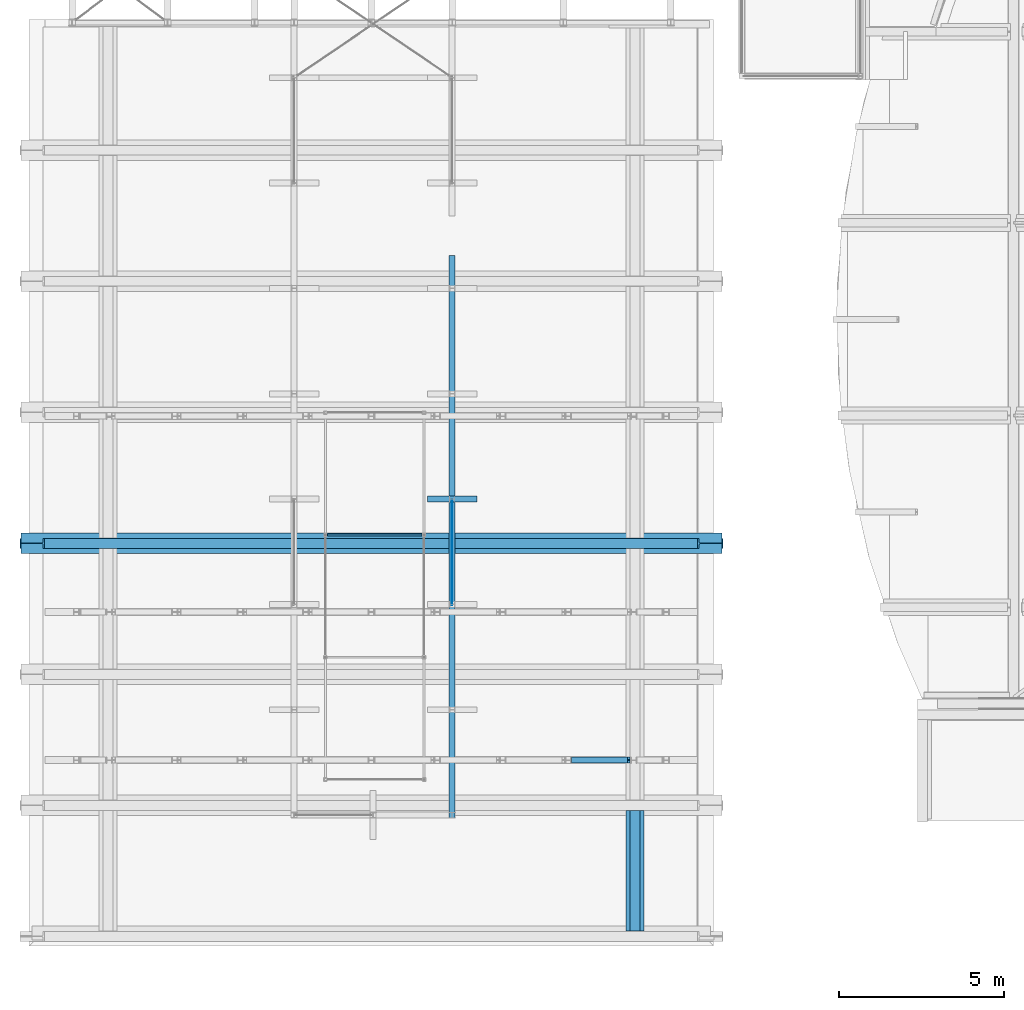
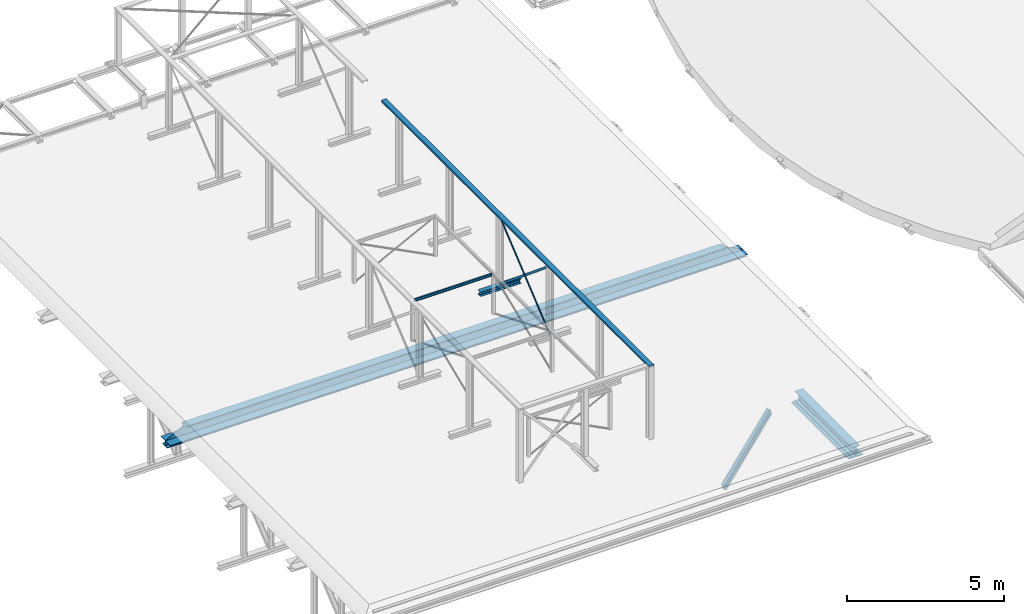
# One storey, part 13 of 50: 8 beams.
"""IFC2X3 building model written with IfcOpenShell, lengths in millimetres."""

from ifc_helpers import new_model, entity, si_unit, converted_unit, derived_unit, direction, frame, frame_2d, origin, origin_2d_with_axis, place, context, subcontext, project, spatial, polyline, circle_curve, parameter, trimmed, segment, composite_curve, rectangle, i_section, outline, extrude, clip, halfspace, bounded_halfspace, source, transform, mapped, material, material_list, type_object, type_shapes, element, save


model = new_model("IFC2X3")

# Units and contexts
model_context = context("Model", 3, precision=0.01, world=origin(), true_north=direction((6.12303176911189e-17, 1.0)))
body_context = subcontext(model_context, "Body", "Model", "MODEL_VIEW")
ifc_project = project(units=[si_unit("LENGTHUNIT", "METRE", prefix="MILLI"), si_unit("AREAUNIT", "SQUARE_METRE", prefix="MILLI"), si_unit("VOLUMEUNIT", "CUBIC_METRE"), converted_unit("PLANEANGLEUNIT", "DEGREE", entity("IfcRatioMeasure", 0.0174532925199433), si_unit("PLANEANGLEUNIT", "RADIAN"), dimensions=[0, 0, 0, 0, 0, 0, 0]), si_unit("MASSUNIT", "GRAM", prefix="KILO"), derived_unit("MASSDENSITYUNIT", [(si_unit("MASSUNIT", "GRAM", prefix="KILO"), 1), (si_unit("LENGTHUNIT", "METRE"), -3)]), derived_unit("MOMENTOFINERTIAUNIT", [(si_unit("LENGTHUNIT", "METRE"), 4)]), si_unit("TIMEUNIT", "SECOND"), si_unit("FREQUENCYUNIT", "HERTZ"), si_unit("THERMODYNAMICTEMPERATUREUNIT", "DEGREE_CELSIUS"), derived_unit("THERMALTRANSMITTANCEUNIT", [(si_unit("MASSUNIT", "GRAM", prefix="KILO"), 1), (si_unit("THERMODYNAMICTEMPERATUREUNIT", "KELVIN"), -1), (si_unit("TIMEUNIT", "SECOND"), -3)]), derived_unit("VOLUMETRICFLOWRATEUNIT", [(si_unit("LENGTHUNIT", "METRE"), 3), (si_unit("TIMEUNIT", "SECOND"), -1)]), si_unit("ELECTRICCURRENTUNIT", "AMPERE"), si_unit("ELECTRICVOLTAGEUNIT", "VOLT"), si_unit("POWERUNIT", "WATT"), si_unit("FORCEUNIT", "NEWTON", prefix="KILO"), si_unit("ILLUMINANCEUNIT", "LUX"), si_unit("LUMINOUSFLUXUNIT", "LUMEN"), si_unit("LUMINOUSINTENSITYUNIT", "CANDELA"), derived_unit("USERDEFINED", [(si_unit("MASSUNIT", "GRAM", prefix="KILO"), -1), (si_unit("LENGTHUNIT", "METRE"), -2), (si_unit("TIMEUNIT", "SECOND"), 3), (si_unit("LUMINOUSFLUXUNIT", "LUMEN"), 1)]), derived_unit("LINEARVELOCITYUNIT", [(si_unit("LENGTHUNIT", "METRE"), 1), (si_unit("TIMEUNIT", "SECOND"), -1)]), si_unit("PRESSUREUNIT", "PASCAL"), derived_unit("USERDEFINED", [(si_unit("LENGTHUNIT", "METRE"), -2), (si_unit("MASSUNIT", "GRAM", prefix="KILO"), 1), (si_unit("TIMEUNIT", "SECOND"), -2)]), derived_unit("LINEARFORCEUNIT", [(si_unit("MASSUNIT", "GRAM", prefix="KILO"), 1), (si_unit("LENGTHUNIT", "METRE"), 1), (si_unit("TIMEUNIT", "SECOND"), -2), (si_unit("LENGTHUNIT", "METRE"), -1)]), derived_unit("PLANARFORCEUNIT", [(si_unit("MASSUNIT", "GRAM", prefix="KILO"), 1), (si_unit("LENGTHUNIT", "METRE"), 1), (si_unit("TIMEUNIT", "SECOND"), -2), (si_unit("LENGTHUNIT", "METRE"), -2)])], contexts=[model_context])

# Site, building, storey
site_placement = place(None, origin())
site = spatial("IfcSite", under=ifc_project, at=site_placement, Name="Theater aan de Parade", CompositionType="ELEMENT")
building_placement = place(site_placement, origin())
building = spatial("IfcBuilding", under=site, at=building_placement, Name="Theater aan de Parade", CompositionType="ELEMENT")
storey_placement = place(building_placement, frame((0.0, 0.0, 15820.0)))
storey = spatial("IfcBuildingStorey", under=building, at=storey_placement, Name="04 vierde verdieping", CompositionType="ELEMENT", Elevation=15820.0)

# Beams
ifc_material_1 = material(Name="00_PBT_MAT_staal_S355")
beam_type_1 = type_object("IfcBeamType", Name="28_PBT_SF_staal_H-profiel:S355_HE180A", PredefinedType="NOTDEFINED")
beam_1_placement = place(storey_placement, frame((32079.8569884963, 19068.2922984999, -4340.0), z_axis=(0.816775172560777, 0.0, -0.576956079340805), x_axis=(0.576956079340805, 0.0, 0.816775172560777)))
element("IfcBeam", 1, at=beam_1_placement, inside=storey, type_object=beam_type_1, material=ifc_material_1, Name="28_PBT_SF_staal_H-profiel:S355_HE180A", ObjectType="28_PBT_SF_staal_H-profiel:S355_HE180A", context=body_context, shape_type="Clipping", body=[
    clip(clip(extrude(outline(composite_curve([segment(polyline([(76.0, -90.0), (85.5000000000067, -90.0)]), True, "CONTINUOUS"), segment(polyline([(85.5000000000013, -90.0), (85.5000000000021, 90.0)]), True, "CONTINUOUS"), segment(polyline([(85.5000000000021, 90.0), (76.0, 90.0)]), True, "CONTINUOUS"), segment(polyline([(76.0, 90.0), (76.0, 18.0)]), True, "CONTINUOUS"), segment(trimmed(circle_curve(frame_2d((61.0, 18.0), x_axis=(1.0, 0.0)), 14.999999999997), [parameter(269.999999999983)], [parameter(0.0)], True, "PARAMETER"), False, "CONTINUOUS"), segment(polyline([(61.0, 3.0), (-61.0, 3.0)]), True, "CONTINUOUS"), segment(trimmed(circle_curve(frame_2d((-61.0, 18.0), x_axis=(0.0, -1.0)), 14.9999999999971), [parameter(269.999999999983)], [parameter(0.0)], True, "PARAMETER"), False, "CONTINUOUS"), segment(polyline([(-76.0, 18.0), (-76.0, 90.0)]), True, "CONTINUOUS"), segment(polyline([(-76.0, 90.0), (-85.4999999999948, 90.0)]), True, "CONTINUOUS"), segment(polyline([(-85.4999999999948, 90.0), (-85.4999999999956, -90.0)]), True, "CONTINUOUS"), segment(polyline([(-85.4999999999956, -90.0), (-76.0, -90.0)]), True, "CONTINUOUS"), segment(polyline([(-76.0, -90.0), (-76.0, -18.0)]), True, "CONTINUOUS"), segment(trimmed(circle_curve(frame_2d((-61.0, -18.0), x_axis=(-1.0, 0.0)), 14.9999999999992), [parameter(269.999999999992)], [parameter(0.0)], True, "PARAMETER"), False, "CONTINUOUS"), segment(polyline([(-61.0, -3.0), (61.0, -3.0)]), True, "CONTINUOUS"), segment(trimmed(circle_curve(frame_2d((61.0, -18.0), x_axis=(0.0, 1.0)), 14.9999999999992), [parameter(269.999999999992)], [parameter(0.0)], True, "PARAMETER"), False, "CONTINUOUS"), segment(polyline([(76.0, -18.0), (76.0, -90.0)]), True, "CONTINUOUS")], self_intersect=False)), frame((207.771728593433, 0.0, 0.0), z_axis=(1.0, 0.0, 0.0), x_axis=(0.0, 0.0, -1.0)), (0.0, 0.0, 1.0), 3037.0590394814), halfspace(frame((144.75167659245, -110.0, 26.9163913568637), z_axis=(-0.576956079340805, 0.0, -0.816775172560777), x_axis=(0.816775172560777, 0.0, -0.576956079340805)), False)), halfspace(frame((1172.31045389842, 110.0, 1481.59297368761), z_axis=(0.576956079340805, 0.0, 0.816775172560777), x_axis=(0.816775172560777, 0.0, -0.576956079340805)), False)),
])
beam_2_placement = place(storey_placement, frame((27803.8569986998, 26998.8337248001, 0.0)))
element("IfcBeam", 2, at=beam_2_placement, inside=storey, type_object=beam_type_1, material=ifc_material_1, Name="28_PBT_SF_staal_H-profiel:S355_HE180A", ObjectType="28_PBT_SF_staal_H-profiel:S355_HE180A", context=body_context, shape_type="SweptSolid", body=[
    extrude(i_section(OverallWidth=180.000000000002, OverallDepth=171.0, WebThickness=6.00000000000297, FlangeThickness=9.49999999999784, FilletRadius=15.0000000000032, at=frame_2d((-2.16715534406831e-12, 2.16715534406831e-12), x_axis=(0.0, 1.0))), frame((0.0, 0.0, 184.499999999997), z_axis=(1.0, 0.0, 0.0), x_axis=(0.0, 0.0, -1.0)), (0.0, 0.0, 1.0), 1500.00000000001),
])
ifc_material_2 = material(Name="00_PBT_MAT_Lucht")
ifc_material_list_1 = material_list([ifc_material_2, ifc_material_1])
beam_type_2 = type_object("IfcBeamType", Name="28_PBT_SF_staal_H-profiel_met_oplegstrippen (void):S355_HE600B + oplegstrippen d=15_vloer h=500", PredefinedType="BEAM", material=ifc_material_list_1)
shared_shape_1 = source(origin(), body_context, "Body", "Clipping", [
    clip(clip(clip(clip(extrude(i_section(OverallWidth=300.00000000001, OverallDepth=600.0, WebThickness=15.4999999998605, FlangeThickness=30.0000000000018, FilletRadius=26.9999999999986, at=frame_2d((1.08002495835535e-12, -6.49436060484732e-12), x_axis=(0.0, 1.0))), frame((15427.3042052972, 25654.2274014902, 15490.0), z_axis=(1.0, 0.0, 0.0), x_axis=(0.0, 0.0, -1.0)), (0.0, 0.0, 1.0), 21352.8563544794), bounded_halfspace(frame((36780.1605597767, 48266.3639688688, 15190.0), z_axis=(0.990313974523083, 0.0, 0.138846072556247), x_axis=(0.0, -1.0, 0.0)), False, frame((15427.3042052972, 25654.2274014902, 15490.0), z_axis=(1.0, 0.0, 0.0), x_axis=(0.0, 0.0, -1.0)), polyline([(101.500000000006, 7.74999999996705), (101.499999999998, -7.75000000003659), (243.0, -7.75000000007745), (270.0, -34.7500000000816), (270.0, -150.0), (300.0, -150.0), (300.0, 150.0), (270.0, 150.0), (270.0, 34.7499999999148), (243.0, 7.74999999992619), (101.500000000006, 7.74999999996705)]))), bounded_halfspace(frame((36752.3300473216, 48266.3639688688, 15388.5000000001), z_axis=(0.474088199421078, 0.0, 0.880477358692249), x_axis=(0.0, -1.0, 0.0)), False, frame((15427.3042052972, 25654.2274014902, 15490.0), z_axis=(1.0, 0.0, 0.0), x_axis=(0.0, 0.0, -1.0)), polyline([(101.500000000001, -7.75000000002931), (101.50000000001, 7.74999999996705), (-64.188320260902, 7.7500000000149), (-243.0, 7.75000000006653), (-270.0, 34.7500000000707), (-270.0, 150.0), (-300.0, 150.0), (-300.0, -150.0), (-270.0, -150.0), (-270.0, -34.7499999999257), (-243.0, -7.74999999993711), (-64.1883202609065, -7.74999999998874), (101.500000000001, -7.75000000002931)]))), bounded_halfspace(frame((15427.3042052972, 3042.09083411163, 15190.0), z_axis=(-0.989382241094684, 0.0, 0.145336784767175), x_axis=(0.0, 1.0, 0.0)), False, frame((15427.3042052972, 25654.2274014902, 15490.0), z_axis=(1.0, 0.0, 0.0), x_axis=(0.0, 0.0, -1.0)), polyline([(100.0, -7.75000000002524), (100.0, 7.74999999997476), (243.0, 7.74999999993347), (270.0, 34.7499999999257), (270.0, 150.0), (300.0, 150.0), (300.0, -150.0), (270.0, -150.0), (270.0, -34.7500000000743), (243.0, -7.75000000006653), (100.0, -7.75000000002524)]))), bounded_halfspace(frame((15456.6835045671, 3042.09083411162, 15390.0), z_axis=(-0.484809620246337, 0.0, 0.874619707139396), x_axis=(0.0, 1.0, 0.0)), False, frame((15427.3042052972, 25654.2274014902, 15490.0), z_axis=(1.0, 0.0, 0.0), x_axis=(0.0, 0.0, -1.0)), polyline([(100.0, 7.74999999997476), (100.0, -7.75000000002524), (-68.1459013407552, -7.74999999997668), (-243.0, -7.74999999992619), (-270.0, -34.7499999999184), (-270.0, -150.0), (-300.0, -150.0), (-300.0, 150.0), (-270.0, 150.0), (-270.0, 34.7500000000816), (-243.0, 7.75000000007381), (-68.1459013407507, 7.75000000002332), (100.0, 7.74999999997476)]))),
    clip(clip(clip(extrude(rectangle(XDim=15.0000000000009, YDim=300.000000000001, at=frame_2d((8.66862137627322e-12, 1.08268949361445e-12), x_axis=(0.0, 1.0))), frame((15454.4800571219, 25811.9774014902, 15382.5), z_axis=(1.0, 0.0, 0.0), x_axis=(0.0, 1.0, 0.0)), (0.0, 0.0, 1.0), 21299.7427454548), halfspace(frame((15427.3042052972, 3042.09083411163, 15190.0), z_axis=(-0.989382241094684, 0.0, 0.145336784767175), x_axis=(0.0, 1.0, 0.0)), False)), bounded_halfspace(frame((36780.1605597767, 48266.3639688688, 15190.0), z_axis=(0.990313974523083, 0.0, 0.138846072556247), x_axis=(0.0, -1.0, 0.0)), False, frame((15454.4800571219, 25811.9774014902, 15382.5), z_axis=(1.0, 0.0, 0.0), x_axis=(0.0, 1.0, 0.0)), polyline([(150.0, 6.0), (-150.0, 6.0), (-150.0, -7.49999999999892), (150.0, -7.49999999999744), (150.0, 6.0)]))), bounded_halfspace(frame((36752.3300473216, 48266.3639688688, 15388.5000000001), z_axis=(0.474088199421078, 0.0, 0.880477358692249), x_axis=(0.0, -1.0, 0.0)), False, frame((15454.4800571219, 25811.9774014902, 15382.5), z_axis=(1.0, 0.0, 0.0), x_axis=(0.0, 1.0, 0.0)), polyline([(-150.0, 6.0), (150.0, 6.0), (150.0, 7.50000000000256), (-150.0, 7.49999999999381), (-150.0, 6.0)]))),
    clip(clip(extrude(rectangle(XDim=11.9999999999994, YDim=300.000000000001, at=frame_2d((2.16582307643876e-12, 1.08286712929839e-11), x_axis=(1.0, 0.0))), frame((15454.7004018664, 25496.4774014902, 15382.5), z_axis=(1.0, 0.0, 0.0), x_axis=(0.0, 0.0, -1.0)), (0.0, 0.0, 1.0), 21299.3120945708), halfspace(frame((36780.1605597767, 48266.3639688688, 15190.0), z_axis=(0.990313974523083, 0.0, 0.138846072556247), x_axis=(0.0, -1.0, 0.0)), False)), halfspace(frame((15427.3042052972, 3042.09083411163, 15190.0), z_axis=(-0.989382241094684, 0.0, 0.145336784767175), x_axis=(0.0, 1.0, 0.0)), False)),
])
type_shapes(beam_type_2, [shared_shape_1])
beam_3_placement = place(storey_placement, frame((0.0, 0.0, -15820.0)))
element("IfcBeam", 3, at=beam_3_placement, inside=storey, type_object=beam_type_2, material=ifc_material_1, Name="28_PBT_SF_staal_H-profiel_met_oplegstrippen (void):S355_HE600B + oplegstrippen d=15_vloer h=500", ObjectType="28_PBT_SF_staal_H-profiel_met_oplegstrippen (void):S355_HE600B + oplegstrippen d=15_vloer h=500", context=body_context, shape_type="MappedRepresentation", body=[
    mapped(shared_shape_1, transform((0.0, 0.0, 0.0), scale=1.0)),
])
ifc_material_list_2 = material_list([ifc_material_1, ifc_material_2])
beam_type_3 = type_object("IfcBeamType", Name="28_PBT_SF_staal_H-profiel_met_onderplaat (void):S355_HE400A + onderplaat d=20", PredefinedType="BEAM", material=ifc_material_list_2)
shared_shape_2 = source(origin(), body_context, "Body", "SweptSolid", [
    extrude(rectangle(XDim=20.0, YDim=550.0, at=frame_2d((3.37507799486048e-14, 0.0), x_axis=(1.0, 0.0))), frame((-1832.24999999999, 0.0, -205.0), z_axis=(1.0, 0.0, 0.0), x_axis=(0.0, 0.0, -1.0)), (0.0, 0.0, 1.0), 3664.50000000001),
    extrude(outline(composite_curve([segment(polyline([(176.0, -150.0), (195.0, -150.0)]), True, "CONTINUOUS"), segment(polyline([(195.0, -150.0), (195.0, 150.0)]), True, "CONTINUOUS"), segment(polyline([(195.0, 150.0), (176.0, 150.0)]), True, "CONTINUOUS"), segment(polyline([(176.0, 150.0), (176.0, 32.5)]), True, "CONTINUOUS"), segment(trimmed(circle_curve(frame_2d((149.0, 32.4999999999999), x_axis=(1.0, 0.0)), 26.9999999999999), [parameter(270.0)], [parameter(0.0)], True, "PARAMETER"), False, "CONTINUOUS"), segment(polyline([(149.0, 5.49999999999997), (-149.0, 5.49999999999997)]), True, "CONTINUOUS"), segment(trimmed(circle_curve(frame_2d((-149.0, 32.5), x_axis=(0.0, -1.0)), 27.0), [parameter(270.0)], [parameter(0.0)], True, "PARAMETER"), False, "CONTINUOUS"), segment(polyline([(-176.0, 32.5), (-176.0, 150.0)]), True, "CONTINUOUS"), segment(polyline([(-176.0, 150.0), (-195.0, 150.0)]), True, "CONTINUOUS"), segment(polyline([(-195.0, 150.0), (-195.0, -150.0)]), True, "CONTINUOUS"), segment(polyline([(-195.0, -150.0), (-176.0, -150.0)]), True, "CONTINUOUS"), segment(polyline([(-176.0, -150.0), (-176.0, -32.5)]), True, "CONTINUOUS"), segment(trimmed(circle_curve(frame_2d((-149.0, -32.5), x_axis=(-1.0, 0.0)), 26.9999999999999), [parameter(269.999999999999)], [parameter(0.0)], True, "PARAMETER"), False, "CONTINUOUS"), segment(polyline([(-149.0, -5.50000000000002), (149.0, -5.50000000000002)]), True, "CONTINUOUS"), segment(trimmed(circle_curve(frame_2d((149.0, -32.4999999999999), x_axis=(0.0, 1.0)), 26.9999999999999), [parameter(270.0)], [parameter(0.0)], True, "PARAMETER"), False, "CONTINUOUS"), segment(polyline([(176.0, -32.5), (176.0, -150.0)]), True, "CONTINUOUS")], self_intersect=False)), frame((-1832.24999999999, 0.0, 0.0), z_axis=(1.0, 0.0, 0.0), x_axis=(0.0, 0.0, -1.0)), (0.0, 0.0, 1.0), 3664.50000000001),
])
type_shapes(beam_type_3, [shared_shape_2])
beam_4_placement = place(storey_placement, frame((34109.3570025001, 15704.2274014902, -235.0), z_axis=(0.0, 0.0, 1.0), x_axis=(0.0, 1.0, 0.0)))
element("IfcBeam", 4, at=beam_4_placement, inside=storey, type_object=beam_type_3, material=ifc_material_1, Name="28_PBT_SF_staal_H-profiel_met_onderplaat (void):S355_HE400A + onderplaat d=20", ObjectType="28_PBT_SF_staal_H-profiel_met_onderplaat (void):S355_HE400A + onderplaat d=20", context=body_context, shape_type="MappedRepresentation", body=[
    mapped(shared_shape_2, transform((0.0, 0.0, 0.0), scale=1.0)),
])
beam_type_4 = type_object("IfcBeamType", Name="28_PBT_SF_staal_IPE-profiel:S355_IPE100", PredefinedType="NOTDEFINED")
beam_5_placement = place(storey_placement, frame((24703.8569986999, 25908.8337248, 1680.0)))
element("IfcBeam", 5, at=beam_5_placement, inside=storey, type_object=beam_type_4, material=ifc_material_1, Name="28_PBT_SF_staal_IPE-profiel:S355_IPE100", ObjectType="28_PBT_SF_staal_IPE-profiel:S355_IPE100", context=body_context, shape_type="SweptSolid", body=[
    extrude(outline(composite_curve([segment(polyline([(44.3000000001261, -27.4999999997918), (50.0, -27.4999999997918)]), True, "CONTINUOUS"), segment(polyline([(50.0, -27.4999999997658), (50.0, 27.5000000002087)]), True, "CONTINUOUS"), segment(polyline([(50.0, 27.5000000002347), (44.2999999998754, 27.5000000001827)]), True, "CONTINUOUS"), segment(polyline([(44.2999999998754, 27.5000000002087), (44.2999999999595, 9.0500000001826)]), True, "CONTINUOUS"), segment(trimmed(circle_curve(frame_2d((37.2999999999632, 9.05000000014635), x_axis=(1.0, 0.0)), 6.99999999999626), [parameter(269.999999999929)], [parameter(0.0)], True, "PARAMETER"), False, "CONTINUOUS"), segment(polyline([(37.2999999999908, 2.05000000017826), (-37.3000000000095, 2.04999999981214)]), True, "CONTINUOUS"), segment(trimmed(circle_curve(frame_2d((-37.3000000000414, 9.04999999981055), x_axis=(0.0, -1.0)), 6.99999999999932), [parameter(270.0)], [parameter(0.0)], True, "PARAMETER"), False, "CONTINUOUS"), segment(polyline([(-44.300000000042, 9.04999999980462), (-44.3000000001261, 27.4999999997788)]), True, "CONTINUOUS"), segment(polyline([(-44.300000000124, 27.4999999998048), (-50.0, 27.4999999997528)]), True, "CONTINUOUS"), segment(polyline([(-50.0, 27.4999999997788), (-50.0, -27.5000000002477)]), True, "CONTINUOUS"), segment(polyline([(-50.0, -27.5000000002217), (-44.2999999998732, -27.5000000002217)]), True, "CONTINUOUS"), segment(polyline([(-44.2999999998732, -27.5000000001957), (-44.2999999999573, -9.05000000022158)]), True, "CONTINUOUS"), segment(trimmed(circle_curve(frame_2d((-37.2999999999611, -9.05000000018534), x_axis=(-1.0, 0.0)), 6.99999999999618), [parameter(269.999999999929)], [parameter(0.0)], True, "PARAMETER"), False, "CONTINUOUS"), segment(polyline([(-37.2999999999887, -2.05000000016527), (37.3000000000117, -2.04999999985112)]), True, "CONTINUOUS"), segment(trimmed(circle_curve(frame_2d((37.3000000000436, -9.04999999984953), x_axis=(0.0, 1.0)), 6.99999999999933), [parameter(270.0)], [parameter(0.0)], True, "PARAMETER"), False, "CONTINUOUS"), segment(polyline([(44.300000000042, -9.04999999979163), (44.3000000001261, -27.4999999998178)]), True, "CONTINUOUS")], self_intersect=False)), frame((62.6999999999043, 0.0, -50.0), z_axis=(1.0, 0.0, 0.0), x_axis=(0.0, 0.0, -1.0)), (0.0, 0.0, 1.0), 2874.59999999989),
])
ifc_material_3 = material(Name="00_PBT_MAT_staal")
beam_type_5 = type_object("IfcBeamType", Name="28_PBT_SF_staal_strip:strip 8x80", PredefinedType="NOTDEFINED")
beam_6_placement = place(storey_placement, frame((28557.8569986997, 26951.9880445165, 308.759216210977), z_axis=(0.0, 0.637563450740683, 0.770397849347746), x_axis=(0.0, -0.770397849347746, 0.637563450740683)))
element("IfcBeam", 6, at=beam_6_placement, inside=storey, type_object=beam_type_5, material=ifc_material_3, Name="28_PBT_SF_staal_strip:strip 8x80", ObjectType="28_PBT_SF_staal_strip:strip 8x80", context=body_context, shape_type="SweptSolid", body=[
    extrude(rectangle(XDim=80.000000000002, YDim=7.99999999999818, at=origin_2d_with_axis()), frame((0.0, 0.0, 0.0), z_axis=(1.0, 0.0, 0.0), x_axis=(0.0, 0.0, -1.0)), (0.0, 0.0, 1.0), 4040.00000000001),
])
beam_7_placement = place(storey_placement, frame((28549.8569986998, 23797.0432873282, 268.538412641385), z_axis=(0.0, -0.637559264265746, 0.770401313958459), x_axis=(0.0, 0.770401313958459, 0.637559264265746)))
element("IfcBeam", 7, at=beam_7_placement, inside=storey, type_object=beam_type_5, material=ifc_material_3, Name="28_PBT_SF_staal_strip:strip 8x80", ObjectType="28_PBT_SF_staal_strip:strip 8x80", context=body_context, shape_type="SweptSolid", body=[
    extrude(rectangle(XDim=79.9999999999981, YDim=8.00000000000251, at=frame_2d((8.38440428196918e-13, 0.0), x_axis=(1.0, 0.0))), frame((0.0, 0.0, 0.0), z_axis=(1.0, 0.0, 0.0), x_axis=(0.0, 0.0, -1.0)), (0.0, 0.0, 1.0), 4120.0),
])
beam_type_6 = type_object("IfcBeamType", Name="28_PBT_SF_staal_UNP-profiel:S355_UNP180", PredefinedType="NOTDEFINED")
beam_8_placement = place(storey_placement, frame((28553.8569986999, 17308.8337248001, 2990.0), z_axis=(0.0, 0.0, 1.0), x_axis=(0.0, 1.0, 0.0)))
element("IfcBeam", 8, at=beam_8_placement, inside=storey, type_object=beam_type_6, material=ifc_material_1, Name="28_PBT_SF_staal_UNP-profiel:S355_UNP180", ObjectType="28_PBT_SF_staal_UNP-profiel:S355_UNP180", context=body_context, shape_type="SweptSolid", body=[
    extrude(outline(composite_curve([segment(polyline([(-38.5102335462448, -90.0), (31.4897664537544, -90.0)]), True, "CONTINUOUS"), segment(polyline([(31.4897664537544, -90.0), (31.4897664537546, -86.877571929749)]), True, "CONTINUOUS"), segment(trimmed(circle_curve(frame_2d((25.9897664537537, -86.877571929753), x_axis=(1.0, 0.0)), 5.50000000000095), [parameter(0.0)], [parameter(85.4260787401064)], True, "PARAMETER"), True, "CONTINUOUS"), segment(polyline([(26.4283651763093, -81.3950878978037), (-20.3874309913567, -77.6498242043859)]), True, "CONTINUOUS"), segment(trimmed(circle_curve(frame_2d((-19.5102335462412, -66.6848561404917), x_axis=(-0.079745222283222, -0.996815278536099)), 11.0000000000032), [parameter(274.573921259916)], [parameter(0.0)], True, "PARAMETER"), False, "CONTINUOUS"), segment(polyline([(-30.5102335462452, -66.684856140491), (-30.5102335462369, 66.6848561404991)]), True, "CONTINUOUS"), segment(trimmed(circle_curve(frame_2d((-19.5102335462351, 66.6848561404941), x_axis=(-1.0, 0.0)), 11.0000000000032), [parameter(274.573921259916)], [parameter(0.0)], True, "PARAMETER"), False, "CONTINUOUS"), segment(polyline([(-20.3874309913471, 77.6498242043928), (26.4283651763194, 81.3950878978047)]), True, "CONTINUOUS"), segment(trimmed(circle_curve(frame_2d((25.9897664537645, 86.8775719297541), x_axis=(0.0797452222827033, -0.99681527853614)), 5.50000000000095), [parameter(0.0)], [parameter(85.4260787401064)], True, "PARAMETER"), True, "CONTINUOUS"), segment(polyline([(31.4897664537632, 86.8775719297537), (31.4897664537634, 90.0)]), True, "CONTINUOUS"), segment(polyline([(31.4897664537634, 90.0), (-38.5102335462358, 90.0)]), True, "CONTINUOUS"), segment(polyline([(-38.5102335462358, 90.0), (-38.510233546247, -90.0)]), True, "CONTINUOUS")], self_intersect=False)), frame((0.0, 0.0, -38.5102335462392), z_axis=(1.0, 0.0, 0.0), x_axis=(0.0, 0.0, -1.0)), (0.0, 0.0, 1.0), 17089.9999999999),
])

save(model, "model.ifc")
